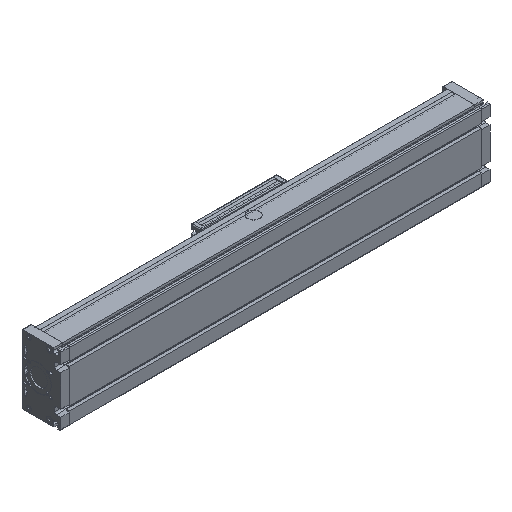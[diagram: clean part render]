
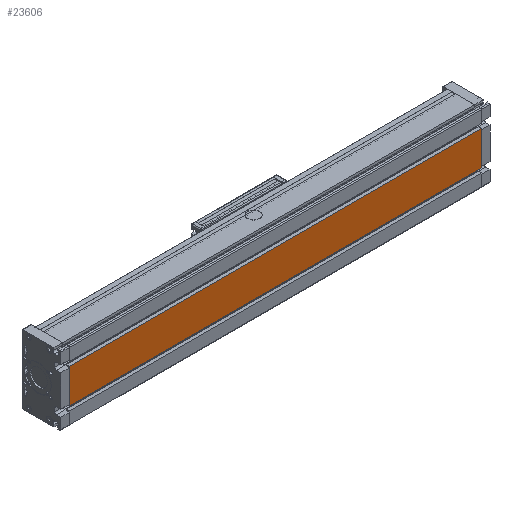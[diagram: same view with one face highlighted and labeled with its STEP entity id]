
A CAD part, isometric view. The second image highlights one B-rep face of the part: STEP entity #23606.
In plain terms, the highlighted planar face has unit normal (0, -1, 0).
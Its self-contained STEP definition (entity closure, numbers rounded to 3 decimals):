
#37 = CARTESIAN_POINT ( 'NONE',  ( 0., -40., 39.95 ) ) ;
#1227 = EDGE_LOOP ( 'NONE', ( #10703, #13313, #10031, #4655 ) ) ;
#2992 = LINE ( 'NONE', #21341, #23983 ) ;
#3137 = CARTESIAN_POINT ( 'NONE',  ( 0., -40., 39.95 ) ) ;
#3711 = VERTEX_POINT ( 'NONE', #3137 ) ;
#4655 = ORIENTED_EDGE ( 'NONE', *, *, #8301, .T. ) ;
#5141 = LINE ( 'NONE', #37, #20276 ) ;
#7542 = DIRECTION ( 'NONE',  ( -1., 0., 0. ) ) ;
#7698 = PLANE ( 'NONE',  #18333 ) ;
#8301 = EDGE_CURVE ( 'NONE', #22340, #3711, #16828, .T. ) ;
#9360 = FACE_OUTER_BOUND ( 'NONE', #1227, .T. ) ;
#10031 = ORIENTED_EDGE ( 'NONE', *, *, #20712, .F. ) ;
#10703 = ORIENTED_EDGE ( 'NONE', *, *, #10854, .T. ) ;
#10854 = EDGE_CURVE ( 'NONE', #3711, #24280, #5141, .T. ) ;
#10957 = VECTOR ( 'NONE', #19046, 1000. ) ;
#11266 = EDGE_CURVE ( 'NONE', #20438, #24280, #2992, .T. ) ;
#11683 = CARTESIAN_POINT ( 'NONE',  ( 960., -40., 39.95 ) ) ;
#13037 = CARTESIAN_POINT ( 'NONE',  ( 960., -40., -39.95 ) ) ;
#13273 = CARTESIAN_POINT ( 'NONE',  ( 960., -40., 39.95 ) ) ;
#13313 = ORIENTED_EDGE ( 'NONE', *, *, #11266, .F. ) ;
#13676 = DIRECTION ( 'NONE',  ( 0., 0., 1. ) ) ;
#13868 = DIRECTION ( 'NONE',  ( 0., 0., -1. ) ) ;
#14044 = DIRECTION ( 'NONE',  ( 0., 0., -1. ) ) ;
#15927 = CARTESIAN_POINT ( 'NONE',  ( 960., -40., 39.95 ) ) ;
#16828 = LINE ( 'NONE', #13273, #10957 ) ;
#18333 = AXIS2_PLACEMENT_3D ( 'NONE', #11683, #25509, #13676 ) ;
#19046 = DIRECTION ( 'NONE',  ( -1., 0., 0. ) ) ;
#20276 = VECTOR ( 'NONE', #13868, 1000. ) ;
#20363 = VECTOR ( 'NONE', #14044, 1000. ) ;
#20438 = VERTEX_POINT ( 'NONE', #13037 ) ;
#20712 = EDGE_CURVE ( 'NONE', #22340, #20438, #20977, .T. ) ;
#20977 = LINE ( 'NONE', #15927, #20363 ) ;
#21341 = CARTESIAN_POINT ( 'NONE',  ( 960., -40., -39.95 ) ) ;
#21574 = CARTESIAN_POINT ( 'NONE',  ( 0., -40., -39.95 ) ) ;
#22340 = VERTEX_POINT ( 'NONE', #25028 ) ;
#23606 = ADVANCED_FACE ( 'NONE', ( #9360 ), #7698, .F. ) ;
#23983 = VECTOR ( 'NONE', #7542, 1000. ) ;
#24280 = VERTEX_POINT ( 'NONE', #21574 ) ;
#25028 = CARTESIAN_POINT ( 'NONE',  ( 960., -40., 39.95 ) ) ;
#25509 = DIRECTION ( 'NONE',  ( 0., 1., 0. ) ) ;
